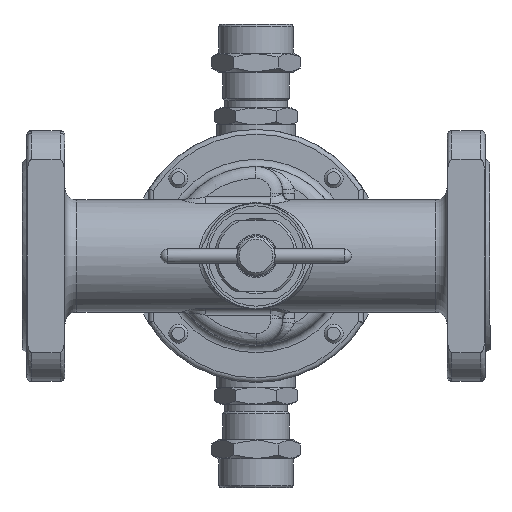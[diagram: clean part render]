
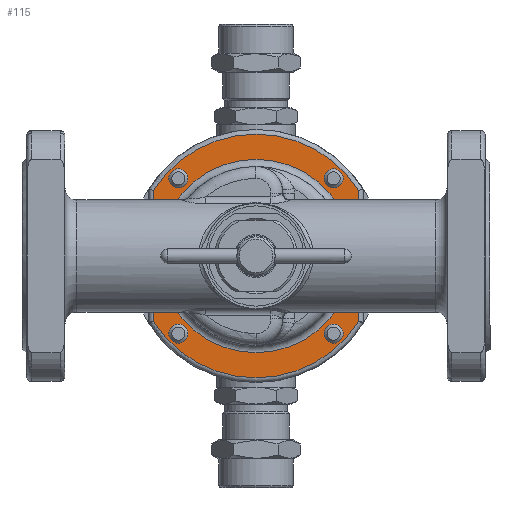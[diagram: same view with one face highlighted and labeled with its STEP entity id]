
A CAD part, front view. The second image highlights one B-rep face of the part: STEP entity #115.
In plain terms, the highlighted planar face has unit normal (0, -1, 0).
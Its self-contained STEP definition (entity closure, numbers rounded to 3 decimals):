
#115=ADVANCED_FACE('',(#4280,#4282,#4284,#4286,#4288,#4290),#4292,.F.);
#4280=FACE_BOUND('',#4281,.T.);
#4281=EDGE_LOOP('',(#21103));
#4282=FACE_BOUND('',#4283,.T.);
#4283=EDGE_LOOP('',(#21104));
#4284=FACE_BOUND('',#4285,.T.);
#4285=EDGE_LOOP('',(#21105));
#4286=FACE_BOUND('',#4287,.T.);
#4287=EDGE_LOOP('',(#21106));
#4288=FACE_BOUND('',#4289,.T.);
#4289=EDGE_LOOP('',(#21107));
#4290=FACE_OUTER_BOUND('',#4291,.T.);
#4291=EDGE_LOOP('',(#21108,#21109,#21110,#21111));
#4292=PLANE('',#4293);
#4293=AXIS2_PLACEMENT_3D('',#4294,#4295,#4296);
#4294=CARTESIAN_POINT('',(0.,30.,0.));
#4295=DIRECTION('',(0.,1.,0.));
#4296=DIRECTION('',(-1.,0.,0.));
#21103=ORIENTED_EDGE('',*,*,#32914,.F.);
#21104=ORIENTED_EDGE('',*,*,#32915,.F.);
#21105=ORIENTED_EDGE('',*,*,#32916,.F.);
#21106=ORIENTED_EDGE('',*,*,#32917,.F.);
#21107=ORIENTED_EDGE('',*,*,#32918,.F.);
#21108=ORIENTED_EDGE('',*,*,#32919,.F.);
#21109=ORIENTED_EDGE('',*,*,#32920,.F.);
#21110=ORIENTED_EDGE('',*,*,#32921,.F.);
#21111=ORIENTED_EDGE('',*,*,#32922,.F.);
#32914=EDGE_CURVE('',#37748,#37748,#37749,.T.);
#32915=EDGE_CURVE('',#37750,#37750,#37751,.T.);
#32916=EDGE_CURVE('',#37752,#37752,#37753,.T.);
#32917=EDGE_CURVE('',#37754,#37754,#37755,.T.);
#32918=EDGE_CURVE('',#37756,#37756,#37757,.T.);
#32919=EDGE_CURVE('',#37758,#37759,#37760,.T.);
#32920=EDGE_CURVE('',#37761,#37758,#37762,.T.);
#32921=EDGE_CURVE('',#37763,#37761,#37764,.T.);
#32922=EDGE_CURVE('',#37759,#37763,#37765,.T.);
#37748=VERTEX_POINT('',#45744);
#37749=CIRCLE('',#45745,4.);
#37750=VERTEX_POINT('',#45749);
#37751=CIRCLE('',#45750,40.5);
#37752=VERTEX_POINT('',#45754);
#37753=CIRCLE('',#45755,4.);
#37754=VERTEX_POINT('',#45759);
#37755=CIRCLE('',#45760,4.);
#37756=VERTEX_POINT('',#45764);
#37757=CIRCLE('',#45765,4.);
#37758=VERTEX_POINT('',#45769);
#37759=VERTEX_POINT('',#45770);
#37760=CIRCLE('',#45771,51.);
#37761=VERTEX_POINT('',#45775);
#37762=LINE('',#45776,#45777);
#37763=VERTEX_POINT('',#45779);
#37764=CIRCLE('',#45780,51.);
#37765=LINE('',#45784,#45785);
#45744=CARTESIAN_POINT('',(-32.527,30.,-36.527));
#45745=AXIS2_PLACEMENT_3D('',#45746,#45747,#45748);
#45746=CARTESIAN_POINT('',(-32.527,30.,-32.527));
#45747=DIRECTION('',(0.,-1.,0.));
#45748=DIRECTION('',(0.,0.,-1.));
#45749=CARTESIAN_POINT('',(-40.5,30.,0.));
#45750=AXIS2_PLACEMENT_3D('',#45751,#45752,#45753);
#45751=CARTESIAN_POINT('',(0.,30.,0.));
#45752=DIRECTION('',(0.,-1.,0.));
#45753=DIRECTION('',(-1.,0.,0.));
#45754=CARTESIAN_POINT('',(32.527,30.,36.527));
#45755=AXIS2_PLACEMENT_3D('',#45756,#45757,#45758);
#45756=CARTESIAN_POINT('',(32.527,30.,32.527));
#45757=DIRECTION('',(0.,-1.,0.));
#45758=DIRECTION('',(0.,0.,1.));
#45759=CARTESIAN_POINT('',(36.527,30.,-32.527));
#45760=AXIS2_PLACEMENT_3D('',#45761,#45762,#45763);
#45761=CARTESIAN_POINT('',(32.527,30.,-32.527));
#45762=DIRECTION('',(0.,-1.,0.));
#45763=DIRECTION('',(1.,0.,0.));
#45764=CARTESIAN_POINT('',(-36.527,30.,32.527));
#45765=AXIS2_PLACEMENT_3D('',#45766,#45767,#45768);
#45766=CARTESIAN_POINT('',(-32.527,30.,32.527));
#45767=DIRECTION('',(0.,-1.,0.));
#45768=DIRECTION('',(-1.,0.,0.));
#45769=CARTESIAN_POINT('',(43.,30.,-27.423));
#45770=CARTESIAN_POINT('',(-43.,30.,-27.423));
#45771=AXIS2_PLACEMENT_3D('',#45772,#45773,#45774);
#45772=CARTESIAN_POINT('',(0.,30.,0.));
#45773=DIRECTION('',(0.,1.,0.));
#45774=DIRECTION('',(0.843,0.,-0.538));
#45775=CARTESIAN_POINT('',(43.,30.,27.423));
#45776=CARTESIAN_POINT('',(43.,30.,27.423));
#45777=VECTOR('',#45778,1.);
#45778=DIRECTION('',(0.,0.,-1.));
#45779=CARTESIAN_POINT('',(-43.,30.,27.423));
#45780=AXIS2_PLACEMENT_3D('',#45781,#45782,#45783);
#45781=CARTESIAN_POINT('',(0.,30.,0.));
#45782=DIRECTION('',(0.,1.,0.));
#45783=DIRECTION('',(-0.843,0.,0.538));
#45784=CARTESIAN_POINT('',(-43.,30.,-27.423));
#45785=VECTOR('',#45786,1.);
#45786=DIRECTION('',(0.,0.,1.));
